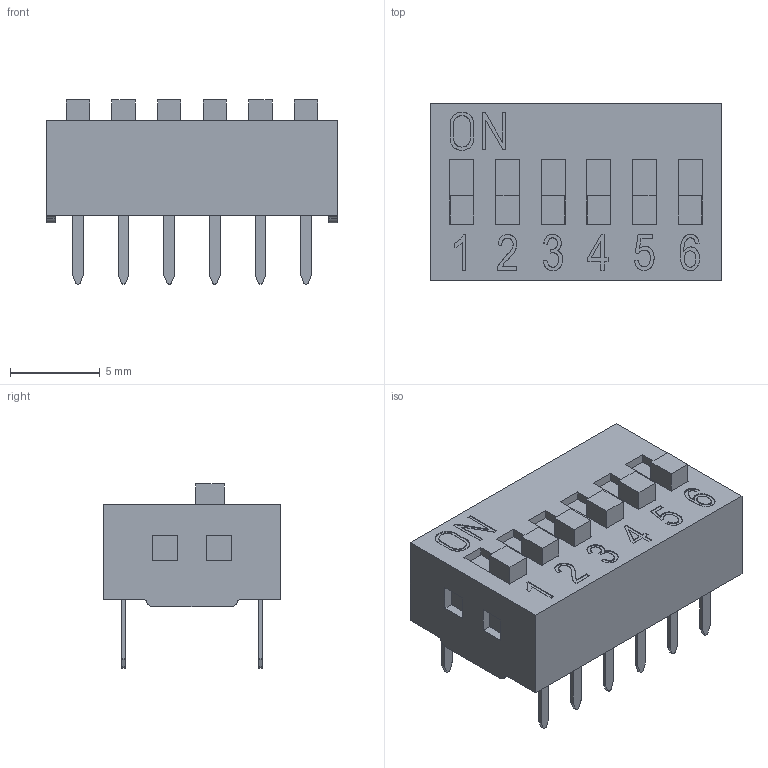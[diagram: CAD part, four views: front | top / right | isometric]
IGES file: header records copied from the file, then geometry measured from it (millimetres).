
Global section: file name: Filename.iges; native system: Open CASCADE 7.3; preprocessor: Open CASCADE IGES processor 7.3; date: 20200811.075220; units: millimetre
Bounding box: 16.24 x 9.9 x 10.25 mm (x, y, z)
Surface area: 1809.3 mm2 (no closed solid volume)
Topology: 0 solids, 0 shells, 479 faces, 2460 edges, 2460 vertices
Faces by surface type: plane 366, bspline 57, revolution 56
